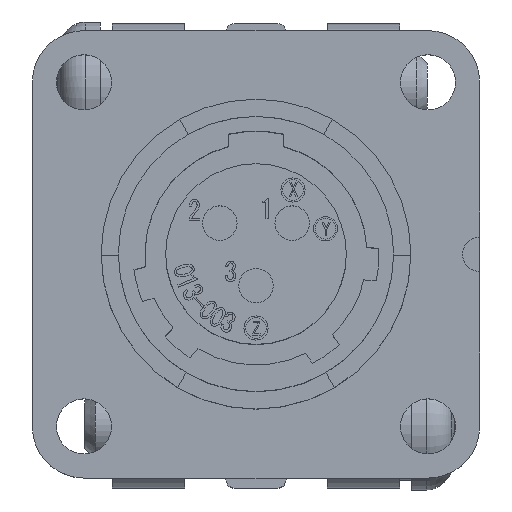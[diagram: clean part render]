
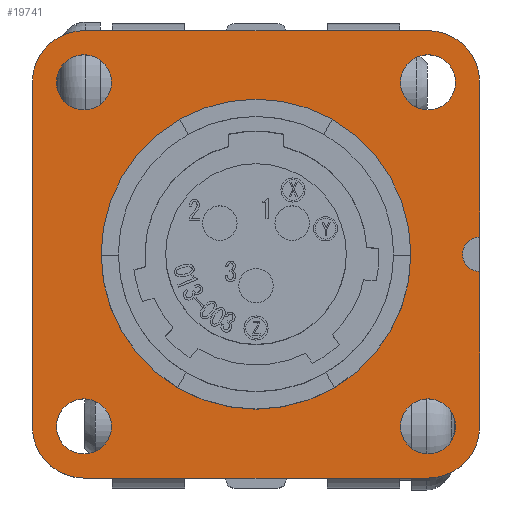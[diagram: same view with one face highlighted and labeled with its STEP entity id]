
A CAD part, top view. The second image highlights one B-rep face of the part: STEP entity #19741.
In plain terms, the highlighted planar face has unit normal (0, 0, 1).
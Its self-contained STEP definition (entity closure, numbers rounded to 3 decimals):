
#106 = DIRECTION ( 'NONE',  ( 0., 0., 1. ) ) ;
#370 = CARTESIAN_POINT ( 'NONE',  ( -10., -10., -10.5 ) ) ;
#378 = CARTESIAN_POINT ( 'NONE',  ( 0., 13., -10.5 ) ) ;
#759 = CARTESIAN_POINT ( 'NONE',  ( 10., 10., -10.5 ) ) ;
#762 = VERTEX_POINT ( 'NONE', #11285 ) ;
#790 = DIRECTION ( 'NONE',  ( 0., -1., 0. ) ) ;
#913 = DIRECTION ( 'NONE',  ( 0., 0., 1. ) ) ;
#958 = AXIS2_PLACEMENT_3D ( 'NONE', #22727, #12330, #18614 ) ;
#1080 = FACE_BOUND ( 'NONE', #7591, .T. ) ;
#1114 = ORIENTED_EDGE ( 'NONE', *, *, #11773, .T. ) ;
#1530 = AXIS2_PLACEMENT_3D ( 'NONE', #11365, #913, #24145 ) ;
#1652 = CARTESIAN_POINT ( 'NONE',  ( -13., 10., -10.5 ) ) ;
#2188 = CIRCLE ( 'NONE', #20182, 9. ) ;
#2275 = CIRCLE ( 'NONE', #24065, 3. ) ;
#2706 = VERTEX_POINT ( 'NONE', #4453 ) ;
#2785 = DIRECTION ( 'NONE',  ( -1., 0., 0. ) ) ;
#2876 = VERTEX_POINT ( 'NONE', #3150 ) ;
#3150 = CARTESIAN_POINT ( 'NONE',  ( -10., -13., -10.5 ) ) ;
#3264 = ORIENTED_EDGE ( 'NONE', *, *, #19481, .F. ) ;
#3395 = VERTEX_POINT ( 'NONE', #11190 ) ;
#3438 = EDGE_CURVE ( 'NONE', #21475, #20047, #22474, .T. ) ;
#3817 = EDGE_LOOP ( 'NONE', ( #17025 ) ) ;
#3936 = VECTOR ( 'NONE', #7743, 1000. ) ;
#3996 = EDGE_LOOP ( 'NONE', ( #25694 ) ) ;
#4116 = CARTESIAN_POINT ( 'NONE',  ( -10., -10., -10.5 ) ) ;
#4152 = VERTEX_POINT ( 'NONE', #16665 ) ;
#4162 = DIRECTION ( 'NONE',  ( 0., -1., 0. ) ) ;
#4453 = CARTESIAN_POINT ( 'NONE',  ( -10., 13., -10.5 ) ) ;
#4653 = ORIENTED_EDGE ( 'NONE', *, *, #11477, .F. ) ;
#4658 = ORIENTED_EDGE ( 'NONE', *, *, #15380, .F. ) ;
#4702 = DIRECTION ( 'NONE',  ( 0., -1., 0. ) ) ;
#4872 = DIRECTION ( 'NONE',  ( 0., 1., 0. ) ) ;
#5015 = VERTEX_POINT ( 'NONE', #25918 ) ;
#5255 = EDGE_CURVE ( 'NONE', #20047, #9461, #24653, .T. ) ;
#5916 = CARTESIAN_POINT ( 'NONE',  ( -13., -10., -10.5 ) ) ;
#6127 = AXIS2_PLACEMENT_3D ( 'NONE', #25180, #12650, #18930 ) ;
#6322 = DIRECTION ( 'NONE',  ( 0., 0., 1. ) ) ;
#6375 = AXIS2_PLACEMENT_3D ( 'NONE', #15322, #8812, #2785 ) ;
#6884 = CIRCLE ( 'NONE', #8471, 1.6 ) ;
#7193 = CARTESIAN_POINT ( 'NONE',  ( 10., -13., -10.5 ) ) ;
#7367 = DIRECTION ( 'NONE',  ( 0., 1., 0. ) ) ;
#7591 = EDGE_LOOP ( 'NONE', ( #13783 ) ) ;
#7743 = DIRECTION ( 'NONE',  ( -1., 0., 0. ) ) ;
#7757 = CIRCLE ( 'NONE', #958, 1.6 ) ;
#7782 = EDGE_CURVE ( 'NONE', #9461, #23640, #10064, .T. ) ;
#8256 = DIRECTION ( 'NONE',  ( -1., 0., 0. ) ) ;
#8439 = EDGE_CURVE ( 'NONE', #19534, #22975, #16926, .T. ) ;
#8471 = AXIS2_PLACEMENT_3D ( 'NONE', #10087, #25074, #10266 ) ;
#8551 = EDGE_LOOP ( 'NONE', ( #14053 ) ) ;
#8580 = ORIENTED_EDGE ( 'NONE', *, *, #16020, .T. ) ;
#8641 = FACE_BOUND ( 'NONE', #8551, .T. ) ;
#8812 = DIRECTION ( 'NONE',  ( 0., 0., -1. ) ) ;
#8878 = ORIENTED_EDGE ( 'NONE', *, *, #25428, .T. ) ;
#8935 = CIRCLE ( 'NONE', #16841, 3. ) ;
#9309 = CARTESIAN_POINT ( 'NONE',  ( -13., 0., -10.5 ) ) ;
#9461 = VERTEX_POINT ( 'NONE', #13998 ) ;
#9939 = VERTEX_POINT ( 'NONE', #15306 ) ;
#10064 = CIRCLE ( 'NONE', #1530, 1. ) ;
#10087 = CARTESIAN_POINT ( 'NONE',  ( -10., 10., -10.5 ) ) ;
#10266 = DIRECTION ( 'NONE',  ( -1., 0., 0. ) ) ;
#10313 = CARTESIAN_POINT ( 'NONE',  ( 10., 13., -10.5 ) ) ;
#10361 = VECTOR ( 'NONE', #7367, 1000. ) ;
#10777 = CARTESIAN_POINT ( 'NONE',  ( 13., -1., -10.5 ) ) ;
#11190 = CARTESIAN_POINT ( 'NONE',  ( -9., 0., -10.5 ) ) ;
#11285 = CARTESIAN_POINT ( 'NONE',  ( -10., -11.6, -10.5 ) ) ;
#11365 = CARTESIAN_POINT ( 'NONE',  ( 13., 0., -10.5 ) ) ;
#11477 = EDGE_CURVE ( 'NONE', #23640, #4152, #16128, .T. ) ;
#11773 = EDGE_CURVE ( 'NONE', #2706, #22975, #8935, .T. ) ;
#11777 = EDGE_CURVE ( 'NONE', #15243, #4152, #24986, .T. ) ;
#11888 = VECTOR ( 'NONE', #4702, 1000. ) ;
#12330 = DIRECTION ( 'NONE',  ( 0., 0., -1. ) ) ;
#12502 = DIRECTION ( 'NONE',  ( -1., 0., 0. ) ) ;
#12650 = DIRECTION ( 'NONE',  ( 0., 0., 1. ) ) ;
#12667 = ORIENTED_EDGE ( 'NONE', *, *, #3438, .F. ) ;
#13092 = LINE ( 'NONE', #16079, #3936 ) ;
#13235 = FACE_BOUND ( 'NONE', #3817, .T. ) ;
#13543 = VERTEX_POINT ( 'NONE', #26101 ) ;
#13783 = ORIENTED_EDGE ( 'NONE', *, *, #16328, .T. ) ;
#13998 = CARTESIAN_POINT ( 'NONE',  ( 13., 1., -10.5 ) ) ;
#14053 = ORIENTED_EDGE ( 'NONE', *, *, #25679, .T. ) ;
#14543 = VECTOR ( 'NONE', #26904, 1000. ) ;
#14547 = DIRECTION ( 'NONE',  ( 0., 0., -1. ) ) ;
#14599 = CARTESIAN_POINT ( 'NONE',  ( 13., 0., -10.5 ) ) ;
#14601 = CARTESIAN_POINT ( 'NONE',  ( 0., 0., -10.5 ) ) ;
#14812 = EDGE_CURVE ( 'NONE', #9939, #9939, #6884, .T. ) ;
#15153 = EDGE_LOOP ( 'NONE', ( #4653, #15365, #25321, #12667, #3264, #1114, #18588, #8580, #4658, #20393 ) ) ;
#15243 = VERTEX_POINT ( 'NONE', #7193 ) ;
#15306 = CARTESIAN_POINT ( 'NONE',  ( -11.6, 10., -10.5 ) ) ;
#15322 = CARTESIAN_POINT ( 'NONE',  ( 10., 10., -10.5 ) ) ;
#15365 = ORIENTED_EDGE ( 'NONE', *, *, #7782, .F. ) ;
#15380 = EDGE_CURVE ( 'NONE', #15243, #2876, #13092, .T. ) ;
#16020 = EDGE_CURVE ( 'NONE', #19534, #2876, #2275, .T. ) ;
#16079 = CARTESIAN_POINT ( 'NONE',  ( 0., -13., -10.5 ) ) ;
#16128 = LINE ( 'NONE', #23881, #11888 ) ;
#16186 = CIRCLE ( 'NONE', #26544, 1.6 ) ;
#16244 = AXIS2_PLACEMENT_3D ( 'NONE', #21356, #19343, #790 ) ;
#16328 = EDGE_CURVE ( 'NONE', #762, #762, #16186, .T. ) ;
#16503 = EDGE_LOOP ( 'NONE', ( #8878 ) ) ;
#16665 = CARTESIAN_POINT ( 'NONE',  ( 13., -10., -10.5 ) ) ;
#16739 = DIRECTION ( 'NONE',  ( 0., -1., 0. ) ) ;
#16769 = DIRECTION ( 'NONE',  ( -1., 0., 0. ) ) ;
#16841 = AXIS2_PLACEMENT_3D ( 'NONE', #23130, #106, #8256 ) ;
#16926 = LINE ( 'NONE', #9309, #10361 ) ;
#17025 = ORIENTED_EDGE ( 'NONE', *, *, #14812, .T. ) ;
#17358 = PLANE ( 'NONE',  #16244 ) ;
#17680 = EDGE_CURVE ( 'NONE', #5015, #5015, #7757, .T. ) ;
#17746 = AXIS2_PLACEMENT_3D ( 'NONE', #759, #21420, #4872 ) ;
#18588 = ORIENTED_EDGE ( 'NONE', *, *, #8439, .F. ) ;
#18614 = DIRECTION ( 'NONE',  ( 1., 0., 0. ) ) ;
#18930 = DIRECTION ( 'NONE',  ( -1., 0., 0. ) ) ;
#19343 = DIRECTION ( 'NONE',  ( 0., 0., -1. ) ) ;
#19481 = EDGE_CURVE ( 'NONE', #2706, #21475, #20059, .T. ) ;
#19534 = VERTEX_POINT ( 'NONE', #5916 ) ;
#19741 = ADVANCED_FACE ( 'NONE', ( #26653, #23987, #13235, #25338, #8641, #1080 ), #17358, .F. ) ;
#20047 = VERTEX_POINT ( 'NONE', #21329 ) ;
#20059 = LINE ( 'NONE', #378, #14543 ) ;
#20182 = AXIS2_PLACEMENT_3D ( 'NONE', #14601, #22986, #12502 ) ;
#20393 = ORIENTED_EDGE ( 'NONE', *, *, #11777, .T. ) ;
#21329 = CARTESIAN_POINT ( 'NONE',  ( 13., 10., -10.5 ) ) ;
#21356 = CARTESIAN_POINT ( 'NONE',  ( 0., 13., -10.5 ) ) ;
#21420 = DIRECTION ( 'NONE',  ( 0., 0., -1. ) ) ;
#21475 = VERTEX_POINT ( 'NONE', #10313 ) ;
#22474 = CIRCLE ( 'NONE', #6375, 3. ) ;
#22727 = CARTESIAN_POINT ( 'NONE',  ( 10., -10., -10.5 ) ) ;
#22975 = VERTEX_POINT ( 'NONE', #1652 ) ;
#22986 = DIRECTION ( 'NONE',  ( 0., 0., -1. ) ) ;
#23088 = CIRCLE ( 'NONE', #17746, 1.6 ) ;
#23130 = CARTESIAN_POINT ( 'NONE',  ( -10., 10., -10.5 ) ) ;
#23640 = VERTEX_POINT ( 'NONE', #10777 ) ;
#23881 = CARTESIAN_POINT ( 'NONE',  ( 13., 0., -10.5 ) ) ;
#23970 = VECTOR ( 'NONE', #4162, 1000. ) ;
#23987 = FACE_BOUND ( 'NONE', #3996, .T. ) ;
#24065 = AXIS2_PLACEMENT_3D ( 'NONE', #370, #6322, #16769 ) ;
#24145 = DIRECTION ( 'NONE',  ( 1., 0., 0. ) ) ;
#24653 = LINE ( 'NONE', #14599, #23970 ) ;
#24986 = CIRCLE ( 'NONE', #6127, 3. ) ;
#25074 = DIRECTION ( 'NONE',  ( 0., 0., -1. ) ) ;
#25180 = CARTESIAN_POINT ( 'NONE',  ( 10., -10., -10.5 ) ) ;
#25321 = ORIENTED_EDGE ( 'NONE', *, *, #5255, .F. ) ;
#25338 = FACE_BOUND ( 'NONE', #16503, .T. ) ;
#25428 = EDGE_CURVE ( 'NONE', #3395, #3395, #2188, .T. ) ;
#25679 = EDGE_CURVE ( 'NONE', #13543, #13543, #23088, .T. ) ;
#25694 = ORIENTED_EDGE ( 'NONE', *, *, #17680, .T. ) ;
#25918 = CARTESIAN_POINT ( 'NONE',  ( 11.6, -10., -10.5 ) ) ;
#26101 = CARTESIAN_POINT ( 'NONE',  ( 10., 11.6, -10.5 ) ) ;
#26544 = AXIS2_PLACEMENT_3D ( 'NONE', #4116, #14547, #16739 ) ;
#26653 = FACE_OUTER_BOUND ( 'NONE', #15153, .T. ) ;
#26904 = DIRECTION ( 'NONE',  ( 1., 0., 0. ) ) ;
